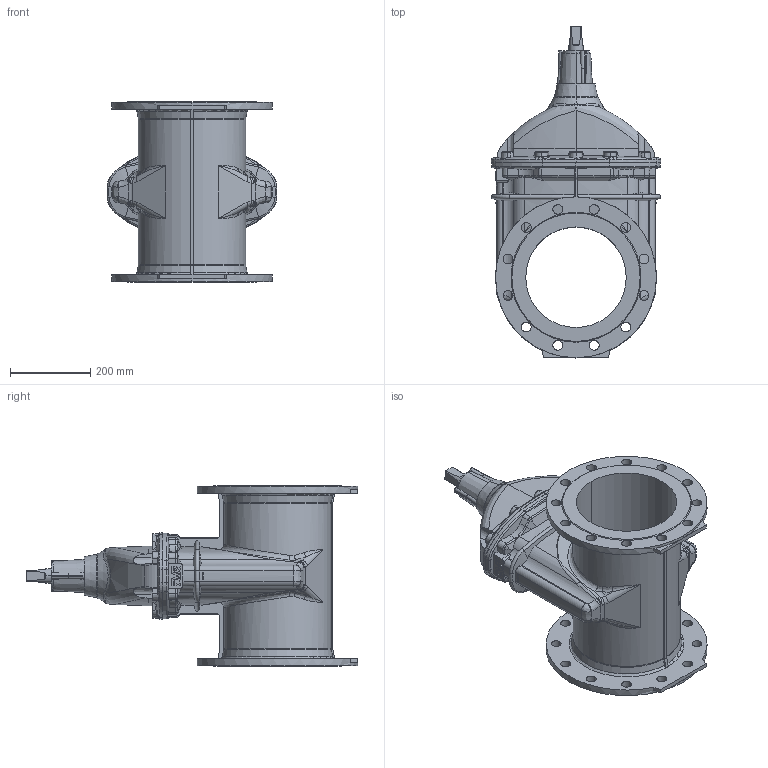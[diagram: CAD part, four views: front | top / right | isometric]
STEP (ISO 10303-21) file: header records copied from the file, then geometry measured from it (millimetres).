
FILE_DESCRIPTION (( 'STEP AP203' ), '1' );
FILE_NAME ('O_02_60_DN250_XXXXXXX9_PN10_REV01.step', '2021-02-16T11:37:04', ( '' ), ( '' ), 'SwSTEP 2.0', 'SolidWorks 2019', '' );
FILE_SCHEMA (( 'CONFIG_CONTROL_DESIGN' ));
Length unit declared in the file: millimetre
Products named in the file (1): O_02_60_DN250_XXXXXXX9_PN10_REV01
Bounding box: 421.93 x 825.1 x 450 mm (x, y, z)
Volume: 23009280.8 mm3; surface area: 1487749.8 mm2
Topology: 1 solids, 1 shells, 787 faces, 2065 edges, 1258 vertices
Faces by surface type: plane 205, cylinder 174, cone 172, bspline 142, torus 92, sphere 2
Entity records: 31658 total; most frequent: CARTESIAN_POINT 13969, ORIENTED_EDGE 4062, DIRECTION 3267, EDGE_CURVE 2031, AXIS2_PLACEMENT_3D 1292, VERTEX_POINT 1258, EDGE_LOOP 849, ADVANCED_FACE 787
